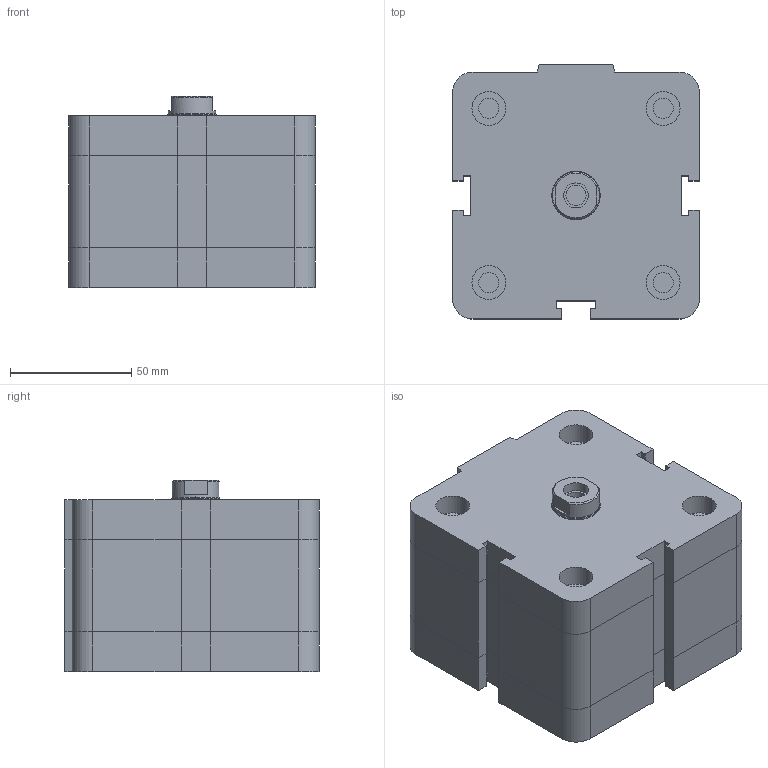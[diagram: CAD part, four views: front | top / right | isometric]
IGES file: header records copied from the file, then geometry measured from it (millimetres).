
Global section: file name: No Iges File Name specified; native system: Autodesk Inventor 2009; preprocessor: AutoDesk Inventor Iges Exporter R2009; author: rivolro1; date: 20081219.153256; units: millimetre
Bounding box: 102 x 105 x 79 mm (x, y, z)
Volume: 702376.4 mm3; surface area: 66010.2 mm2
Topology: 2 solids, 2 shells, 187 faces, 410 edges, 248 vertices
Faces by surface type: plane 112, bspline 39, revolution 16, cylinder 16, cone 4
